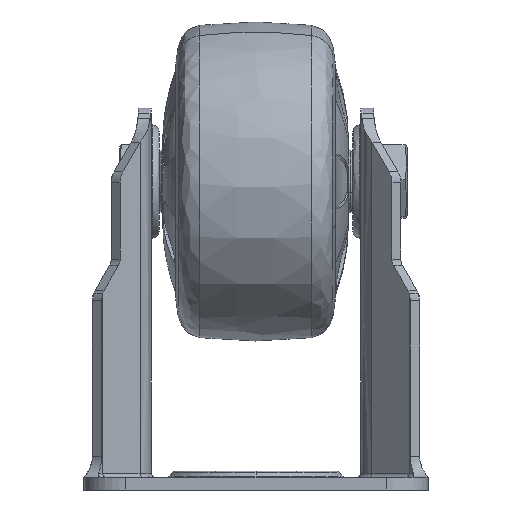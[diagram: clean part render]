
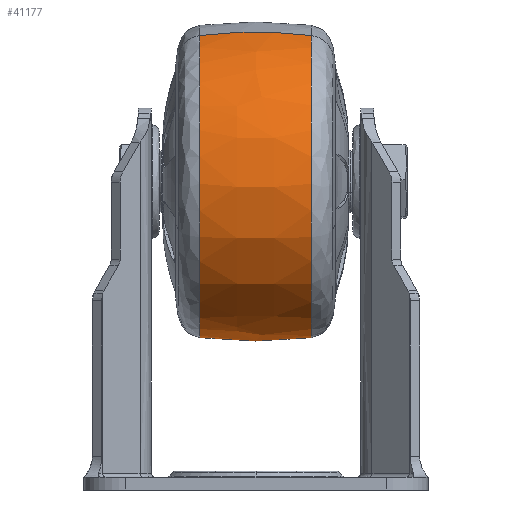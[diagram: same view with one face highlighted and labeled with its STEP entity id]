
A CAD part, left-side view. The second image highlights one B-rep face of the part: STEP entity #41177.
In plain terms, the highlighted free-form (B-spline) face has degree [3, 3] with [4, 4] control points.
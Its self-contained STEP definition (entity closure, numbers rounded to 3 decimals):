
#3521 = EDGE_CURVE ( 'NONE', #57905, #43006, #40907, .T. ) ;
#4906 = EDGE_CURVE ( 'NONE', #38045, #43006, #28373, .T. ) ;
#6212 = CIRCLE ( 'NONE', #36495, 37.214 ) ;
#6233 = CARTESIAN_POINT ( 'NONE',  ( 13.245, -13.179, 38.722 ) ) ;
#7512 = DIRECTION ( 'NONE',  ( 0., -1., 0. ) ) ;
#9057 = CARTESIAN_POINT ( 'NONE',  ( -13.666, -4.352, 109.383 ) ) ;
#9853 = CARTESIAN_POINT ( 'NONE',  ( -82.8, 13.379, 81.787 ) ) ;
#11947 = ORIENTED_EDGE ( 'NONE', *, *, #23116, .F. ) ;
#12574 = VERTEX_POINT ( 'NONE', #6233 ) ;
#14979 = CARTESIAN_POINT ( 'NONE',  ( -82.8, -13.179, 81.787 ) ) ;
#16252 = CIRCLE ( 'NONE', #33900, 100. ) ;
#19020 = ORIENTED_EDGE ( 'NONE', *, *, #4906, .T. ) ;
#20067 = EDGE_CURVE ( 'NONE', #38045, #12574, #6212, .T. ) ;
#20515 = CARTESIAN_POINT ( 'NONE',  ( 0., -13.179, 73.5 ) ) ;
#20930 = DIRECTION ( 'NONE',  ( 0.353, -0.133, -0.926 ) ) ;
#21296 = CARTESIAN_POINT ( 'NONE',  ( -58.099, 4.552, 10.285 ) ) ;
#22065 = CARTESIAN_POINT ( 'NONE',  ( 13.666, -4.352, 37.617 ) ) ;
#23116 = EDGE_CURVE ( 'NONE', #12574, #57905, #16252, .T. ) ;
#24909 = DIRECTION ( 'NONE',  ( -0.356, 0., 0.935 ) ) ;
#26077 = CARTESIAN_POINT ( 'NONE',  ( -22.031, 0.1, 131.347 ) ) ;
#27202 = FACE_OUTER_BOUND ( 'NONE', #68497, .T. ) ;
#27984 = CARTESIAN_POINT ( 'NONE',  ( 13.666, 4.552, 37.617 ) ) ;
#28373 = CIRCLE ( 'NONE', #30895, 100. ) ;
#28374 = CARTESIAN_POINT ( 'NONE',  ( 13.245, 13.379, 38.722 ) ) ;
#30895 = AXIS2_PLACEMENT_3D ( 'NONE', #65346, #45969, #70477 ) ;
#32975 = ORIENTED_EDGE ( 'NONE', *, *, #20067, .F. ) ;
#33900 = AXIS2_PLACEMENT_3D ( 'NONE', #26077, #56904, #20930 ) ;
#36495 = AXIS2_PLACEMENT_3D ( 'NONE', #20515, #7512, #24909 ) ;
#36717 = CARTESIAN_POINT ( 'NONE',  ( 0., 13.379, 73.5 ) ) ;
#38045 = VERTEX_POINT ( 'NONE', #72730 ) ;
#40907 = CIRCLE ( 'NONE', #59873, 37.214 ) ;
#41177 = ADVANCED_FACE ( 'NONE', ( #27202 ), #42130, .F. ) ;
#41318 = ORIENTED_EDGE ( 'NONE', *, *, #3521, .F. ) ;
#42130 =( BOUNDED_SURFACE ( )  B_SPLINE_SURFACE ( 3, 3, ( 
 ( #51325, #9853, #56864, #28374 ),
 ( #44993, #75413, #21296, #27984 ),
 ( #9057, #76190, #69114, #22065 ),
 ( #46178, #14979, #70287, #45777 ) ),
 .UNSPECIFIED., .F., .F., .F. ) 
 B_SPLINE_SURFACE_WITH_KNOTS ( ( 4, 4 ),
 ( 4, 4 ),
 ( 0., 1. ),
 ( 0., 1. ),
 .UNSPECIFIED. ) 
 GEOMETRIC_REPRESENTATION_ITEM ( )  RATIONAL_B_SPLINE_SURFACE ( (
 ( 1., 0.333, 0.333, 1.),
 ( 0.994, 0.331, 0.331, 0.994),
 ( 0.994, 0.331, 0.331, 0.994),
 ( 1., 0.333, 0.333, 1.) ) ) 
 REPRESENTATION_ITEM ( '' )  SURFACE ( )  );
#43006 = VERTEX_POINT ( 'NONE', #64873 ) ;
#44993 = CARTESIAN_POINT ( 'NONE',  ( -13.666, 4.552, 109.383 ) ) ;
#45604 = CARTESIAN_POINT ( 'NONE',  ( 13.245, 13.379, 38.722 ) ) ;
#45777 = CARTESIAN_POINT ( 'NONE',  ( 13.245, -13.179, 38.722 ) ) ;
#45969 = DIRECTION ( 'NONE',  ( -0.935, 0., -0.356 ) ) ;
#46178 = CARTESIAN_POINT ( 'NONE',  ( -13.245, -13.179, 108.278 ) ) ;
#51325 = CARTESIAN_POINT ( 'NONE',  ( -13.245, 13.379, 108.278 ) ) ;
#56864 = CARTESIAN_POINT ( 'NONE',  ( -56.31, 13.379, 12.232 ) ) ;
#56904 = DIRECTION ( 'NONE',  ( 0.935, 0., 0.356 ) ) ;
#57905 = VERTEX_POINT ( 'NONE', #45604 ) ;
#59873 = AXIS2_PLACEMENT_3D ( 'NONE', #36717, #61608, #73067 ) ;
#61608 = DIRECTION ( 'NONE',  ( 0., 1., 0. ) ) ;
#64873 = CARTESIAN_POINT ( 'NONE',  ( -13.245, 13.379, 108.278 ) ) ;
#65346 = CARTESIAN_POINT ( 'NONE',  ( 22.031, 0.1, 15.653 ) ) ;
#68497 = EDGE_LOOP ( 'NONE', ( #19020, #41318, #11947, #32975 ) ) ;
#69114 = CARTESIAN_POINT ( 'NONE',  ( -58.099, -4.352, 10.285 ) ) ;
#70287 = CARTESIAN_POINT ( 'NONE',  ( -56.31, -13.179, 12.232 ) ) ;
#70477 = DIRECTION ( 'NONE',  ( -0.353, -0.133, 0.926 ) ) ;
#72730 = CARTESIAN_POINT ( 'NONE',  ( -13.245, -13.179, 108.278 ) ) ;
#73067 = DIRECTION ( 'NONE',  ( 0.356, 0., -0.935 ) ) ;
#75413 = CARTESIAN_POINT ( 'NONE',  ( -85.431, 4.552, 82.05 ) ) ;
#76190 = CARTESIAN_POINT ( 'NONE',  ( -85.431, -4.352, 82.05 ) ) ;
